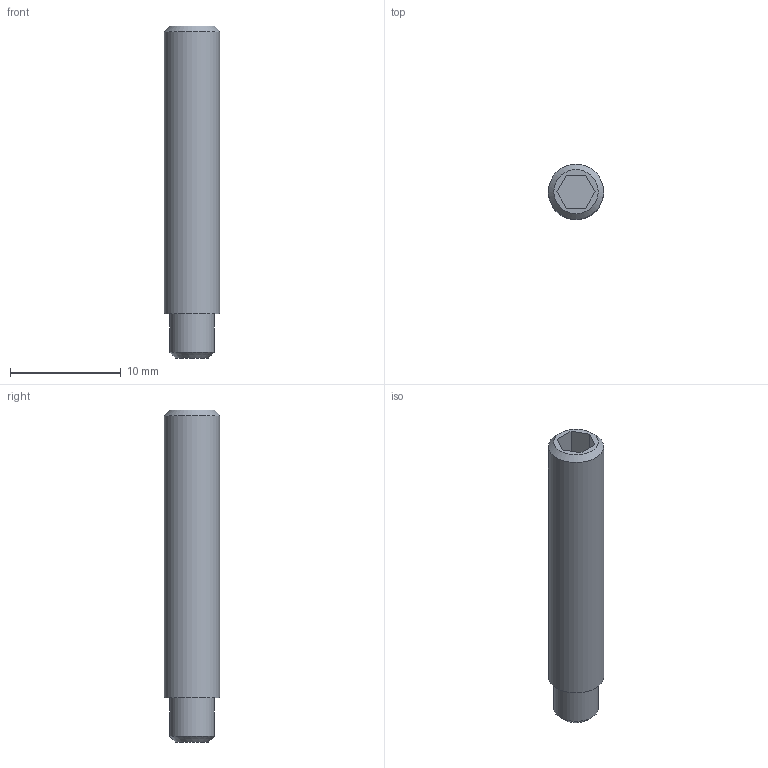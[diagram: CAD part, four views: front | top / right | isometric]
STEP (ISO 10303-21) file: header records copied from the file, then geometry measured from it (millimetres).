
FILE_DESCRIPTION(/* description */ (''),/* implementation_level */ '2;1');
FILE_NAME(/* name */ '01-031.stp',/* time_stamp */ '2023-08-14T21:49:31+03:00',/* author */ ('mosta'),/* organization */ (''),/* preprocessor_version */ 'ST-DEVELOPER v19.2',/* originating_system */ 'Autodesk Inventor 2024',/* authorisation */ '');
FILE_SCHEMA (('AUTOMOTIVE_DESIGN { 1 0 10303 214 3 1 1 }'));
Length unit declared in the file: millimetre
Products named in the file (1): 01-031
Bounding box: 5 x 5 x 30 mm (x, y, z)
Volume: 526.3 mm3; surface area: 530.6 mm2
Topology: 1 solids, 1 shells, 14 faces, 29 edges, 19 vertices
Faces by surface type: plane 10, cone 2, cylinder 2
Full cylindrical faces by diameter (mm): 4 x1, 5 x1
Entity records: 424 total; most frequent: DIRECTION 66, CARTESIAN_POINT 63, ORIENTED_EDGE 58, EDGE_CURVE 29, LINE 22, VECTOR 22, AXIS2_PLACEMENT_3D 22, VERTEX_POINT 19
